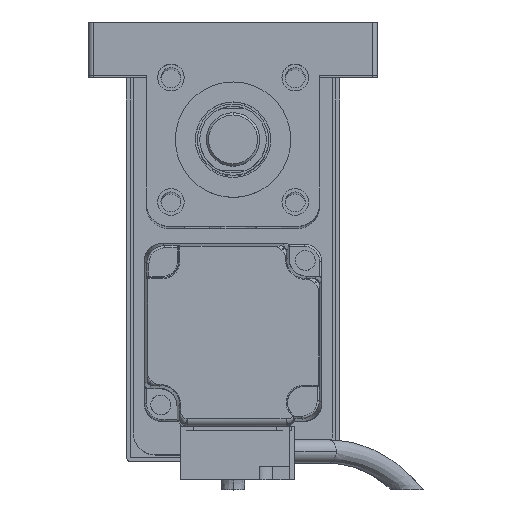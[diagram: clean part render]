
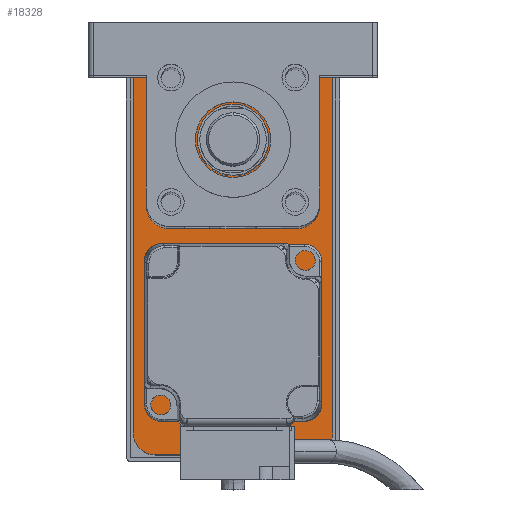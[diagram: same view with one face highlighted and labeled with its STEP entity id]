
A CAD part, top view. The second image highlights one B-rep face of the part: STEP entity #18328.
In plain terms, the highlighted planar face has unit normal (0, 0, 1).
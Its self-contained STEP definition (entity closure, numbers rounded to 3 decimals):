
#1510 = LINE ( 'NONE', #4747, #16109 ) ;
#1694 = CARTESIAN_POINT ( 'NONE',  ( -22.5, -40., 10. ) ) ;
#2060 = CARTESIAN_POINT ( 'NONE',  ( -17.5, 40., 10. ) ) ;
#2267 = LINE ( 'NONE', #3822, #25241 ) ;
#2439 = ORIENTED_EDGE ( 'NONE', *, *, #3858, .T. ) ;
#2617 = LINE ( 'NONE', #4548, #6016 ) ;
#2636 = DIRECTION ( 'NONE',  ( 1., 0., 0. ) ) ;
#3002 = VERTEX_POINT ( 'NONE', #12211 ) ;
#3310 = LINE ( 'NONE', #6221, #13252 ) ;
#3334 = ORIENTED_EDGE ( 'NONE', *, *, #3556, .T. ) ;
#3443 = EDGE_CURVE ( 'NONE', #17031, #5814, #1510, .T. ) ;
#3556 = EDGE_CURVE ( 'NONE', #15749, #17031, #19497, .T. ) ;
#3822 = CARTESIAN_POINT ( 'NONE',  ( 22.5, 45., 10. ) ) ;
#3858 = EDGE_CURVE ( 'NONE', #6863, #18845, #24745, .T. ) ;
#4064 = DIRECTION ( 'NONE',  ( 0., 0., 1. ) ) ;
#4548 = CARTESIAN_POINT ( 'NONE',  ( 22.5, -45., 10. ) ) ;
#4747 = CARTESIAN_POINT ( 'NONE',  ( 22.5, -45., 10. ) ) ;
#4767 = ORIENTED_EDGE ( 'NONE', *, *, #16850, .T. ) ;
#5104 = DIRECTION ( 'NONE',  ( 1., 0., 0. ) ) ;
#5250 = CARTESIAN_POINT ( 'NONE',  ( 17.5, -40., 10. ) ) ;
#5599 = DIRECTION ( 'NONE',  ( -1., 0., 0. ) ) ;
#5704 = EDGE_LOOP ( 'NONE', ( #21478, #19556, #16965, #4767, #18653, #2439, #24384, #3334 ) ) ;
#5814 = VERTEX_POINT ( 'NONE', #14006 ) ;
#6016 = VECTOR ( 'NONE', #2636, 1000. ) ;
#6221 = CARTESIAN_POINT ( 'NONE',  ( -22.5, -45., 10. ) ) ;
#6829 = DIRECTION ( 'NONE',  ( 0., 1., 0. ) ) ;
#6863 = VERTEX_POINT ( 'NONE', #1694 ) ;
#7246 = CARTESIAN_POINT ( 'NONE',  ( 17.5, 45., 10. ) ) ;
#7491 = EDGE_CURVE ( 'NONE', #14075, #3002, #2267, .T. ) ;
#7848 = CIRCLE ( 'NONE', #15466, 5. ) ;
#9223 = DIRECTION ( 'NONE',  ( 1., 0., 0. ) ) ;
#10584 = DIRECTION ( 'NONE',  ( 1., 0., 0. ) ) ;
#11254 = DIRECTION ( 'NONE',  ( 0., 0., 1. ) ) ;
#11339 = CARTESIAN_POINT ( 'NONE',  ( 17.5, -45., 10. ) ) ;
#12211 = CARTESIAN_POINT ( 'NONE',  ( -17.5, 45., 10. ) ) ;
#12666 = PLANE ( 'NONE',  #21789 ) ;
#13252 = VECTOR ( 'NONE', #16204, 1000. ) ;
#14006 = CARTESIAN_POINT ( 'NONE',  ( 22.5, 40., 10. ) ) ;
#14075 = VERTEX_POINT ( 'NONE', #7246 ) ;
#14504 = AXIS2_PLACEMENT_3D ( 'NONE', #14662, #22519, #10584 ) ;
#14662 = CARTESIAN_POINT ( 'NONE',  ( -17.5, -40., 10. ) ) ;
#14764 = CARTESIAN_POINT ( 'NONE',  ( 0., 0., 10. ) ) ;
#14800 = AXIS2_PLACEMENT_3D ( 'NONE', #5250, #17221, #9223 ) ;
#15466 = AXIS2_PLACEMENT_3D ( 'NONE', #23032, #11254, #5104 ) ;
#15594 = CIRCLE ( 'NONE', #23604, 5. ) ;
#15749 = VERTEX_POINT ( 'NONE', #11339 ) ;
#16109 = VECTOR ( 'NONE', #6829, 1000. ) ;
#16204 = DIRECTION ( 'NONE',  ( 0., -1., 0. ) ) ;
#16362 = EDGE_CURVE ( 'NONE', #5814, #14075, #7848, .T. ) ;
#16850 = EDGE_CURVE ( 'NONE', #3002, #25199, #15594, .T. ) ;
#16869 = CARTESIAN_POINT ( 'NONE',  ( -22.5, 40., 10. ) ) ;
#16935 = DIRECTION ( 'NONE',  ( 1., 0., 0. ) ) ;
#16965 = ORIENTED_EDGE ( 'NONE', *, *, #7491, .T. ) ;
#17031 = VERTEX_POINT ( 'NONE', #20530 ) ;
#17221 = DIRECTION ( 'NONE',  ( 0., 0., 1. ) ) ;
#17872 = EDGE_CURVE ( 'NONE', #25199, #6863, #3310, .T. ) ;
#18328 = ADVANCED_FACE ( 'NONE', ( #22524 ), #12666, .T. ) ;
#18653 = ORIENTED_EDGE ( 'NONE', *, *, #17872, .T. ) ;
#18845 = VERTEX_POINT ( 'NONE', #23220 ) ;
#19497 = CIRCLE ( 'NONE', #14800, 5. ) ;
#19556 = ORIENTED_EDGE ( 'NONE', *, *, #16362, .T. ) ;
#20530 = CARTESIAN_POINT ( 'NONE',  ( 22.5, -40., 10. ) ) ;
#20551 = DIRECTION ( 'NONE',  ( 0., 0., 1. ) ) ;
#21437 = EDGE_CURVE ( 'NONE', #18845, #15749, #2617, .T. ) ;
#21478 = ORIENTED_EDGE ( 'NONE', *, *, #3443, .T. ) ;
#21789 = AXIS2_PLACEMENT_3D ( 'NONE', #14764, #20551, #16935 ) ;
#22519 = DIRECTION ( 'NONE',  ( 0., 0., 1. ) ) ;
#22524 = FACE_OUTER_BOUND ( 'NONE', #5704, .T. ) ;
#23032 = CARTESIAN_POINT ( 'NONE',  ( 17.5, 40., 10. ) ) ;
#23220 = CARTESIAN_POINT ( 'NONE',  ( -17.5, -45., 10. ) ) ;
#23604 = AXIS2_PLACEMENT_3D ( 'NONE', #2060, #4064, #25477 ) ;
#24384 = ORIENTED_EDGE ( 'NONE', *, *, #21437, .T. ) ;
#24745 = CIRCLE ( 'NONE', #14504, 5. ) ;
#25199 = VERTEX_POINT ( 'NONE', #16869 ) ;
#25241 = VECTOR ( 'NONE', #5599, 1000. ) ;
#25477 = DIRECTION ( 'NONE',  ( 1., 0., 0. ) ) ;
